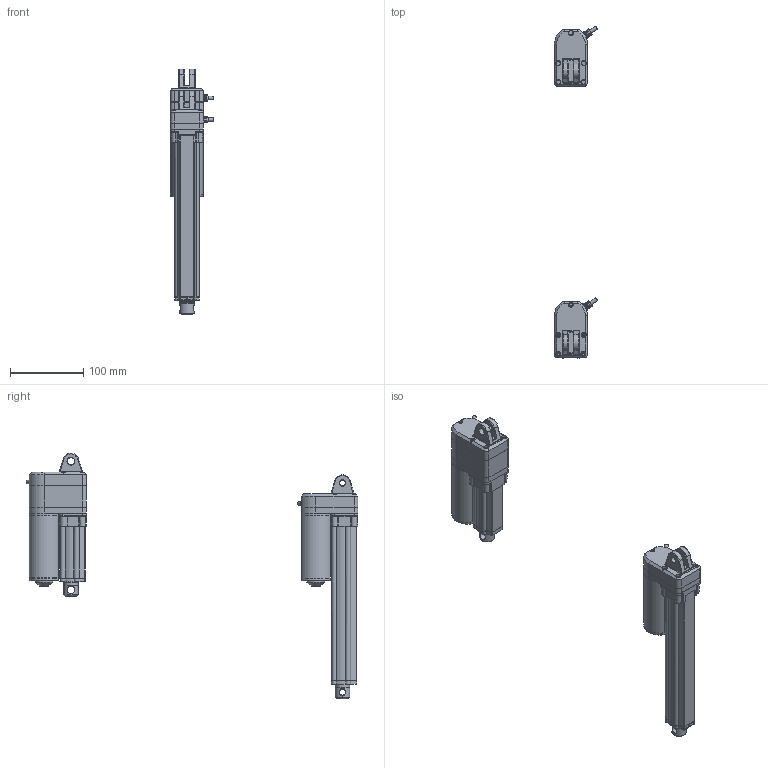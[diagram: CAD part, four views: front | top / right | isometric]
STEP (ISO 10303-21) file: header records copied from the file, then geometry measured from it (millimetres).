
FILE_DESCRIPTION(/* description */ (''),/* implementation_level */ '2;1');
FILE_NAME(/* name */ 'FY-019.stp',/* time_stamp */ '2021-12-15T10:39:57+08:00',/* author */ (''),/* organization */ (''),/* preprocessor_version */ 'ST-DEVELOPER v16',/* originating_system */ 'SIEMENS PLM Software NX 10.0',/* authorisation */ '');
FILE_SCHEMA (('AUTOMOTIVE_DESIGN { 1 0 10303 214 3 1 1 1 }'));
Products named in the file (1): Admi0ED4AD4B45ds
Bounding box: 58.8 x 452.19 x 334.46 mm (x, y, z)
Volume: 840572.8 mm3; surface area: 148327.9 mm2
Topology: 2 solids, 16 shells, 2201 faces, 5446 edges, 3322 vertices
Faces by surface type: cylinder 847, plane 675, torus 337, bspline 174, cone 112, sphere 50, extrusion 6
Full cylindrical faces by diameter (mm): 1.3 x4, 1.5 x2, 2.05 x4, 2.5 x1, 3 x14, 3.3 x5, 4 x12, 4.2 x13, 5 x10, 5.9 x10, 6.8 x10, 7 x6, 8 x1, 8.1 x3, 8.5 x1, 9 x2, 10.2 x3, 12 x2, 14.2 x1, 15.4 x1, 16 x1, 18 x1, 20 x7, 21 x1, 21.2 x2, 22 x2, 24 x2, 26 x1
Entity records: 86655 total; most frequent: CARTESIAN_POINT 22161, DIRECTION 11003, ORIENTED_EDGE 10278, EDGE_CURVE 5139, AXIS2_PLACEMENT_3D 4479, VERTEX_POINT 3230, EDGE_LOOP 2527, CIRCLE 2446
